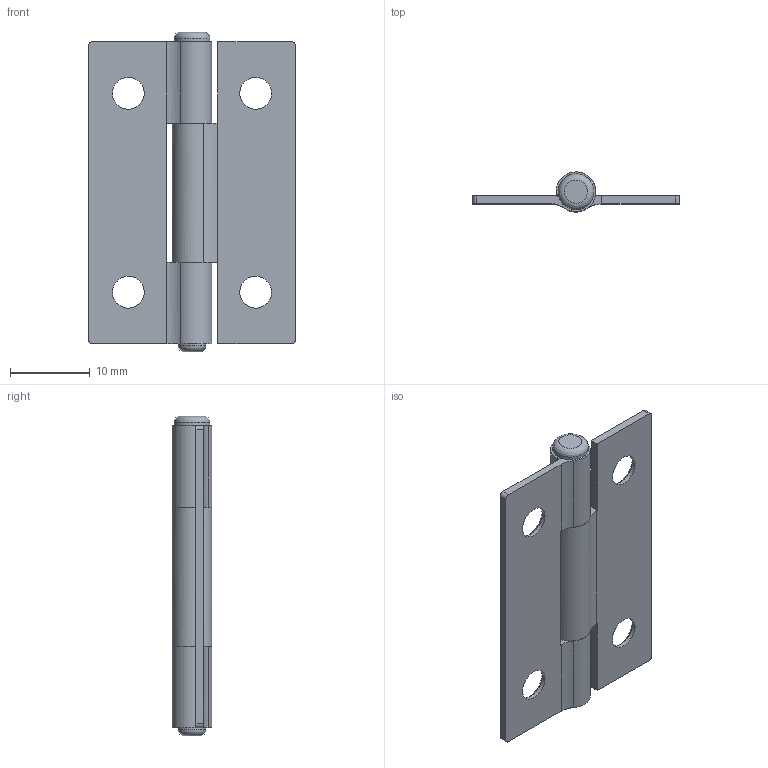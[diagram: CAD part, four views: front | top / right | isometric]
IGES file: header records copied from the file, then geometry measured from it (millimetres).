
Global section: file name: DR_HH3826-10; native system: Autodesk Inventor 2015; preprocessor: unknown; author: user; date: 20170816.144618; units: millimetre
Bounding box: 26 x 5 x 40.2 mm (x, y, z)
Volume: 1485.5 mm3; surface area: 3112.2 mm2
Topology: 3 solids, 3 shells, 53 faces, 147 edges, 102 vertices
Faces by surface type: bspline 53
